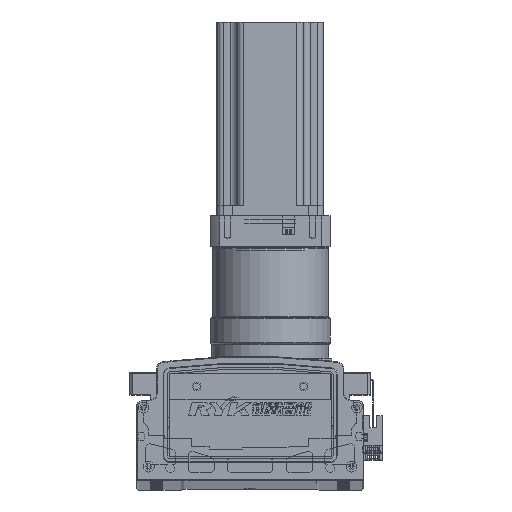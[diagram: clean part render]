
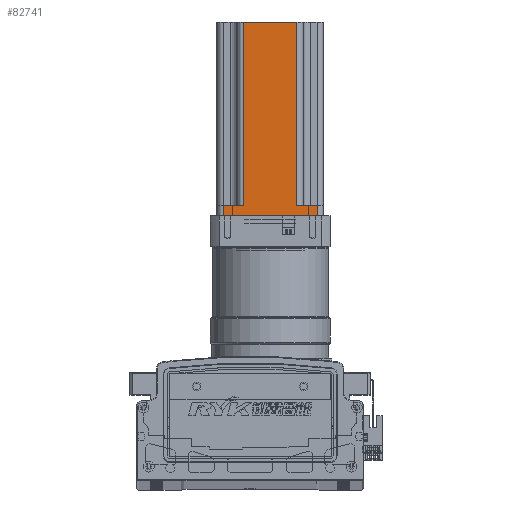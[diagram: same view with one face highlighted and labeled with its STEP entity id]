
A CAD part, top view. The second image highlights one B-rep face of the part: STEP entity #82741.
In plain terms, the highlighted planar face has unit normal (0, 0, 1) as drawn and (0, -1, 0) by its records, which use the part's own axes.
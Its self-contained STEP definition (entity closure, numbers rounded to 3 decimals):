
#523 = CARTESIAN_POINT ( 'NONE',  ( -67.587, -40.37, 145. ) ) ;
#534 = CARTESIAN_POINT ( 'NONE',  ( -12.587, -40.37, 0. ) ) ;
#546 = CARTESIAN_POINT ( 'NONE',  ( -82.587, -40.37, 0. ) ) ;
#584 = CARTESIAN_POINT ( 'NONE',  ( -27.587, -40.37, 8. ) ) ;
#616 = CARTESIAN_POINT ( 'NONE',  ( -67.587, -40.37, 8. ) ) ;
#636 = CARTESIAN_POINT ( 'NONE',  ( -12.587, -40.37, 8. ) ) ;
#637 = CARTESIAN_POINT ( 'NONE',  ( -27.587, -40.37, 145. ) ) ;
#646 = CARTESIAN_POINT ( 'NONE',  ( -82.587, -40.37, 8. ) ) ;
#7751 = EDGE_CURVE ( 'NONE', #120896, #120656, #93126, .T. ) ;
#9394 = EDGE_CURVE ( 'NONE', #120656, #120686, #49591, .T. ) ;
#9401 = EDGE_CURVE ( 'NONE', #120792, #120880, #49617, .T. ) ;
#9408 = EDGE_CURVE ( 'NONE', #120686, #120864, #49616, .T. ) ;
#9421 = EDGE_CURVE ( 'NONE', #120650, #120846, #49688, .T. ) ;
#9451 = EDGE_CURVE ( 'NONE', #120650, #120880, #49660, .T. ) ;
#9464 = EDGE_CURVE ( 'NONE', #120792, #120864, #49724, .T. ) ;
#9473 = EDGE_CURVE ( 'NONE', #120896, #120846, #49722, .T. ) ;
#49572 = VECTOR ( 'NONE', #105708, 1000. ) ;
#49591 = LINE ( 'NONE', #105600, #49623 ) ;
#49595 = VECTOR ( 'NONE', #105718, 1000. ) ;
#49616 = LINE ( 'NONE', #105737, #49595 ) ;
#49617 = LINE ( 'NONE', #105733, #49572 ) ;
#49623 = VECTOR ( 'NONE', #105602, 1000. ) ;
#49649 = VECTOR ( 'NONE', #105995, 1000. ) ;
#49660 = LINE ( 'NONE', #105973, #49649 ) ;
#49679 = VECTOR ( 'NONE', #105803, 1000. ) ;
#49688 = LINE ( 'NONE', #105767, #49679 ) ;
#49722 = LINE ( 'NONE', #106077, #49751 ) ;
#49724 = LINE ( 'NONE', #106049, #49738 ) ;
#49738 = VECTOR ( 'NONE', #106126, 1000. ) ;
#49751 = VECTOR ( 'NONE', #106132, 1000. ) ;
#69296 = ORIENTED_EDGE ( 'NONE', *, *, #9401, .T. ) ;
#69310 = ORIENTED_EDGE ( 'NONE', *, *, #9451, .F. ) ;
#69318 = ORIENTED_EDGE ( 'NONE', *, *, #7751, .T. ) ;
#69320 = ORIENTED_EDGE ( 'NONE', *, *, #9473, .F. ) ;
#69338 = ORIENTED_EDGE ( 'NONE', *, *, #9464, .F. ) ;
#69364 = ORIENTED_EDGE ( 'NONE', *, *, #9408, .T. ) ;
#69376 = ORIENTED_EDGE ( 'NONE', *, *, #9421, .T. ) ;
#69378 = ORIENTED_EDGE ( 'NONE', *, *, #9394, .T. ) ;
#82741 = ADVANCED_FACE ( 'NONE', ( #121532 ), #107669, .F. ) ;
#93126 = LINE ( 'NONE', #112172, #93146 ) ;
#93146 = VECTOR ( 'NONE', #112181, 1000. ) ;
#105600 = CARTESIAN_POINT ( 'NONE',  ( -87.587, -40.37, 0. ) ) ;
#105602 = DIRECTION ( 'NONE',  ( 1., 0., 0. ) ) ;
#105708 = DIRECTION ( 'NONE',  ( 0., 0., 1. ) ) ;
#105718 = DIRECTION ( 'NONE',  ( 0., 0., 1. ) ) ;
#105733 = CARTESIAN_POINT ( 'NONE',  ( -27.587, -40.37, 145. ) ) ;
#105737 = CARTESIAN_POINT ( 'NONE',  ( -12.587, -40.37, 145. ) ) ;
#105767 = CARTESIAN_POINT ( 'NONE',  ( -67.587, -40.37, 145. ) ) ;
#105803 = DIRECTION ( 'NONE',  ( 0., 0., -1. ) ) ;
#105973 = CARTESIAN_POINT ( 'NONE',  ( -87.587, -40.37, 145. ) ) ;
#105995 = DIRECTION ( 'NONE',  ( 1., 0., 0. ) ) ;
#106049 = CARTESIAN_POINT ( 'NONE',  ( -7.587, -40.37, 8. ) ) ;
#106077 = CARTESIAN_POINT ( 'NONE',  ( -87.587, -40.37, 8. ) ) ;
#106126 = DIRECTION ( 'NONE',  ( 1., 0., 0. ) ) ;
#106132 = DIRECTION ( 'NONE',  ( 1., 0., 0. ) ) ;
#107643 = DIRECTION ( 'NONE',  ( 0., 1., 0. ) ) ;
#107669 = PLANE ( 'NONE',  #116786 ) ;
#107677 = CARTESIAN_POINT ( 'NONE',  ( -87.587, -40.37, 145. ) ) ;
#107684 = DIRECTION ( 'NONE',  ( -1., 0., 0. ) ) ;
#112172 = CARTESIAN_POINT ( 'NONE',  ( -82.587, -40.37, 145. ) ) ;
#112181 = DIRECTION ( 'NONE',  ( 0., 0., -1. ) ) ;
#116786 = AXIS2_PLACEMENT_3D ( 'NONE', #107677, #107643, #107684 ) ;
#118766 = EDGE_LOOP ( 'NONE', ( #69320, #69318, #69378, #69364, #69338, #69296, #69310, #69376 ) ) ;
#120650 = VERTEX_POINT ( 'NONE', #523 ) ;
#120656 = VERTEX_POINT ( 'NONE', #546 ) ;
#120686 = VERTEX_POINT ( 'NONE', #534 ) ;
#120792 = VERTEX_POINT ( 'NONE', #584 ) ;
#120846 = VERTEX_POINT ( 'NONE', #616 ) ;
#120864 = VERTEX_POINT ( 'NONE', #636 ) ;
#120880 = VERTEX_POINT ( 'NONE', #637 ) ;
#120896 = VERTEX_POINT ( 'NONE', #646 ) ;
#121532 = FACE_OUTER_BOUND ( 'NONE', #118766, .T. ) ;
